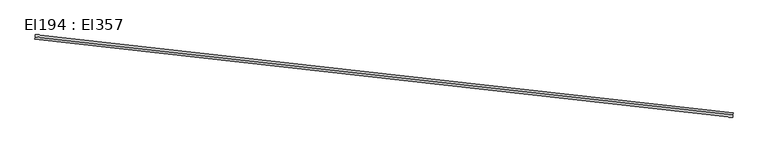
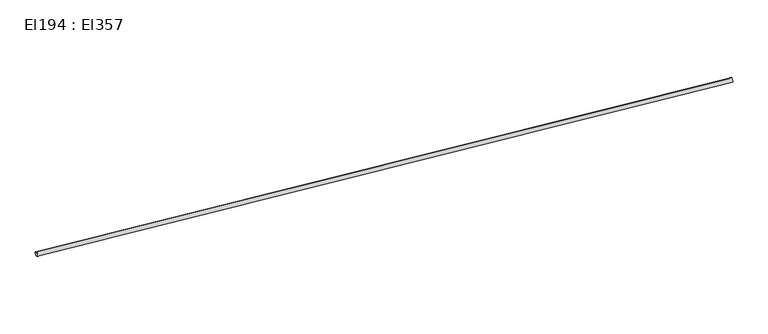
"""IFC4 building model written with IfcOpenShell, lengths in millimetres: cable carrier segment geometry, El194 : El357."""

from ifc_helpers import new_model, si_unit, point, frame, frame_2d, origin, place, context, project, spatial, circle_curve, trimmed, segment, composite_curve, outline, extrude, source, transform, mapped, element, save


def el194_el357_835912d5(model_context):
    return source(origin(), model_context, "Body", "SweptSolid", [
        extrude(outline(composite_curve([segment(trimmed(circle_curve(frame_2d((0.0, -51.0)), 51.0), [point((0.0, -102.0))], [point((0.0, 0.0))], False, "CARTESIAN"), True, "CONTINUOUS"), segment(trimmed(circle_curve(frame_2d((0.0, -51.0)), 51.0), [point((0.0, 0.0))], [point((0.0, -102.0))], False, "CARTESIAN"), True, "CONTINUOUS")], self_intersect=False)), frame((22017.23189, 4900.5928697, 1551.0), z_axis=(-0.9937557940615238, 0.11157697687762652, 0.0), x_axis=(-0.11157697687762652, -0.9937557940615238, 0.0)), (0.0, 0.0, 1.0), 16458.9),
    ])


if __name__ == "__main__":
    model = new_model("IFC4")
    model_context = context("Model", 3, world=origin())
    ifc_project = project(units=[si_unit("LENGTHUNIT", "METRE", prefix="MILLI")], contexts=[model_context])
    site = spatial("IfcSite", under=ifc_project)
    building = spatial("IfcBuilding", under=site)
    placement = place(None, origin())
    el194_el357_shape = el194_el357_835912d5(model_context)
    element("IfcCableCarrierSegment", 1, ObjectType="El194 : El357", at=placement, inside=building, context=model_context, shape_type="MappedRepresentation", body=[
        mapped(el194_el357_shape, transform((0.0, 0.0, 0.0), x_axis=(1.0, 0.0, 0.0), y_axis=(0.0, 1.0, 0.0), z_axis=(0.0, 0.0, 1.0))),
    ])
    save(model, "model.ifc")
